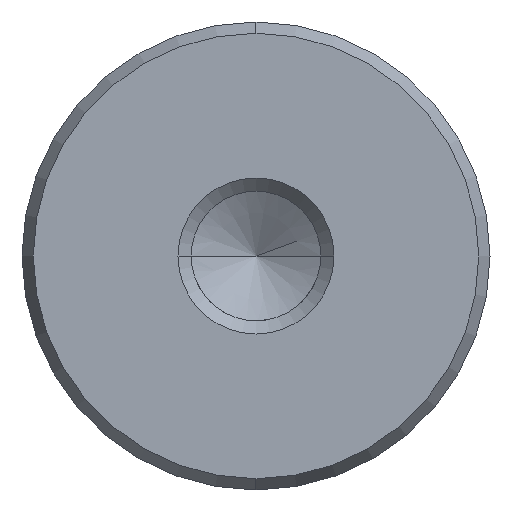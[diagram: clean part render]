
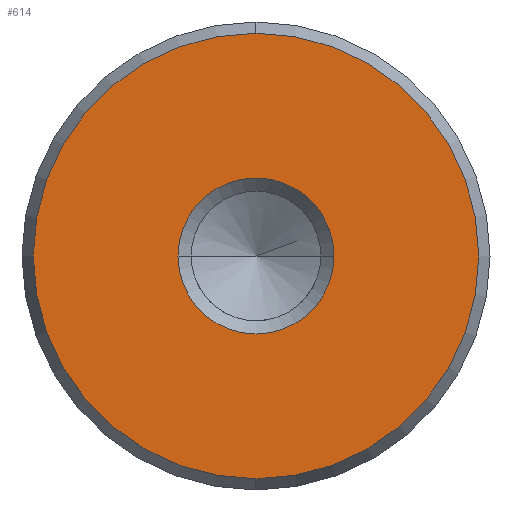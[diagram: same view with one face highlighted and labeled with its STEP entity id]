
A CAD part, left-side view. The second image highlights one B-rep face of the part: STEP entity #614.
In plain terms, the highlighted planar face has unit normal (-1, 0, 0).
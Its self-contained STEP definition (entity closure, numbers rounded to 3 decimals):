
#528=CARTESIAN_POINT('Vertex',(0.,0.,-11.423)) ;
#531=CARTESIAN_POINT('Axis2P3D Location',(0.,0.,0.)) ;
#535=CARTESIAN_POINT('Vertex',(0.,11.423,0.)) ;
#538=CARTESIAN_POINT('Axis2P3D Location',(0.,0.,0.)) ;
#542=CARTESIAN_POINT('Vertex',(0.,0.,11.423)) ;
#564=CARTESIAN_POINT('Axis2P3D Location',(0.,0.,0.)) ;
#568=CARTESIAN_POINT('Vertex',(0.,-11.423,0.)) ;
#571=CARTESIAN_POINT('Axis2P3D Location',(0.,0.,0.)) ;
#585=CARTESIAN_POINT('Axis2P3D Location',(0.,0.,0.)) ;
#596=CARTESIAN_POINT('Axis2P3D Location',(0.,0.,0.)) ;
#600=CARTESIAN_POINT('Vertex',(0.,4.,0.)) ;
#602=CARTESIAN_POINT('Vertex',(0.,-4.,0.)) ;
#605=CARTESIAN_POINT('Axis2P3D Location',(0.,0.,0.)) ;
#532=DIRECTION('Axis2P3D Direction',(1.,0.,-0.)) ;
#539=DIRECTION('Axis2P3D Direction',(1.,0.,-0.)) ;
#565=DIRECTION('Axis2P3D Direction',(1.,0.,-0.)) ;
#572=DIRECTION('Axis2P3D Direction',(1.,0.,-0.)) ;
#586=DIRECTION('Axis2P3D Direction',(1.,0.,-0.)) ;
#587=DIRECTION('Axis2P3D XDirection',(-0.,0.,-1.)) ;
#597=DIRECTION('Axis2P3D Direction',(1.,0.,-0.)) ;
#606=DIRECTION('Axis2P3D Direction',(1.,0.,-0.)) ;
#533=AXIS2_PLACEMENT_3D('Circle Axis2P3D',#531,#532,$) ;
#540=AXIS2_PLACEMENT_3D('Circle Axis2P3D',#538,#539,$) ;
#566=AXIS2_PLACEMENT_3D('Circle Axis2P3D',#564,#565,$) ;
#573=AXIS2_PLACEMENT_3D('Circle Axis2P3D',#571,#572,$) ;
#588=AXIS2_PLACEMENT_3D('Plane Axis2P3D',#585,#586,#587) ;
#598=AXIS2_PLACEMENT_3D('Circle Axis2P3D',#596,#597,$) ;
#607=AXIS2_PLACEMENT_3D('Circle Axis2P3D',#605,#606,$) ;
#591=ORIENTED_EDGE('',*,*,#537,.F.) ;
#592=ORIENTED_EDGE('',*,*,#575,.F.) ;
#593=ORIENTED_EDGE('',*,*,#570,.F.) ;
#594=ORIENTED_EDGE('',*,*,#544,.F.) ;
#611=ORIENTED_EDGE('',*,*,#604,.T.) ;
#612=ORIENTED_EDGE('',*,*,#609,.T.) ;
#613=FACE_BOUND('',#610,.T.) ;
#614=ADVANCED_FACE('720-24x224',(#595,#613),#589,.F.) ;
#534=CIRCLE('generated circle',#533,11.423) ;
#541=CIRCLE('generated circle',#540,11.423) ;
#567=CIRCLE('generated circle',#566,11.423) ;
#574=CIRCLE('generated circle',#573,11.423) ;
#599=CIRCLE('generated circle',#598,4.) ;
#608=CIRCLE('generated circle',#607,4.) ;
#537=EDGE_CURVE('',#529,#536,#534,.T.) ;
#544=EDGE_CURVE('',#536,#543,#541,.T.) ;
#570=EDGE_CURVE('',#543,#569,#567,.T.) ;
#575=EDGE_CURVE('',#569,#529,#574,.T.) ;
#604=EDGE_CURVE('',#601,#603,#599,.T.) ;
#609=EDGE_CURVE('',#603,#601,#608,.T.) ;
#590=EDGE_LOOP('',(#591,#592,#593,#594)) ;
#610=EDGE_LOOP('',(#611,#612)) ;
#595=FACE_OUTER_BOUND('',#590,.T.) ;
#589=PLANE('Plane',#588) ;
#529=VERTEX_POINT('',#528) ;
#536=VERTEX_POINT('',#535) ;
#543=VERTEX_POINT('',#542) ;
#569=VERTEX_POINT('',#568) ;
#601=VERTEX_POINT('',#600) ;
#603=VERTEX_POINT('',#602) ;
